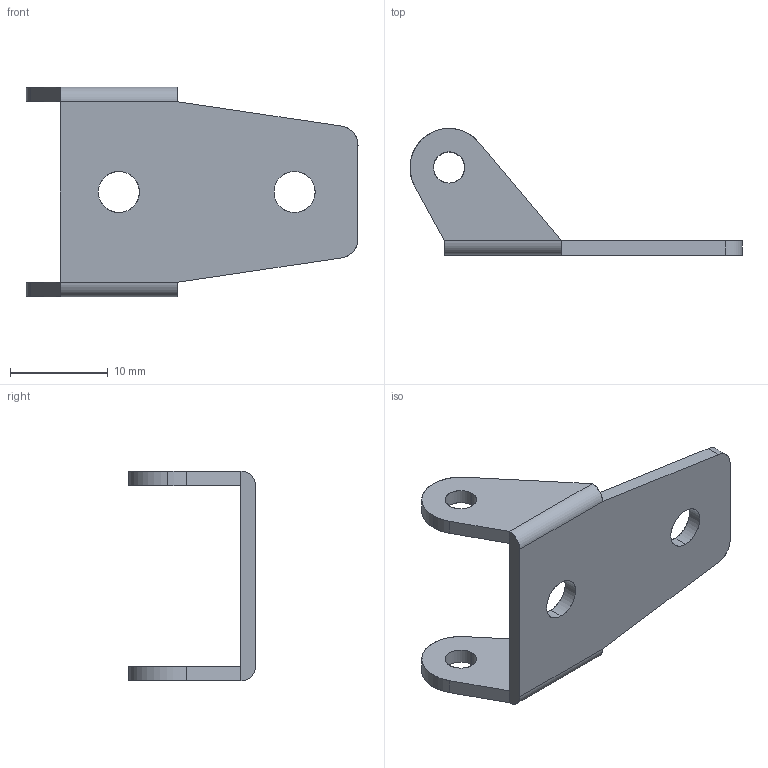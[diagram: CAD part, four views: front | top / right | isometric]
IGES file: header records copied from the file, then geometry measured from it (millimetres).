
Start section: SolidWorks IGES FILE using analytic representation for surfaces
Global section: file name: C:\WINNT\Profiles\cbrechard\Bureau\GE 1061\61.020.00.IGS; native system: SolidWorks 2001Plus by SolidWorks Corporation; preprocessor: Version 5.3; author: CBRECHARD; date: 050124.102748; units: millimetre
Bounding box: 34.01 x 13 x 21.5 mm (x, y, z)
Surface area: 1695.6 mm2 (no closed solid volume)
Topology: 0 solids, 0 shells, 31 faces, 508 edges, 508 vertices
Faces by surface type: bspline 16, revolution 15
